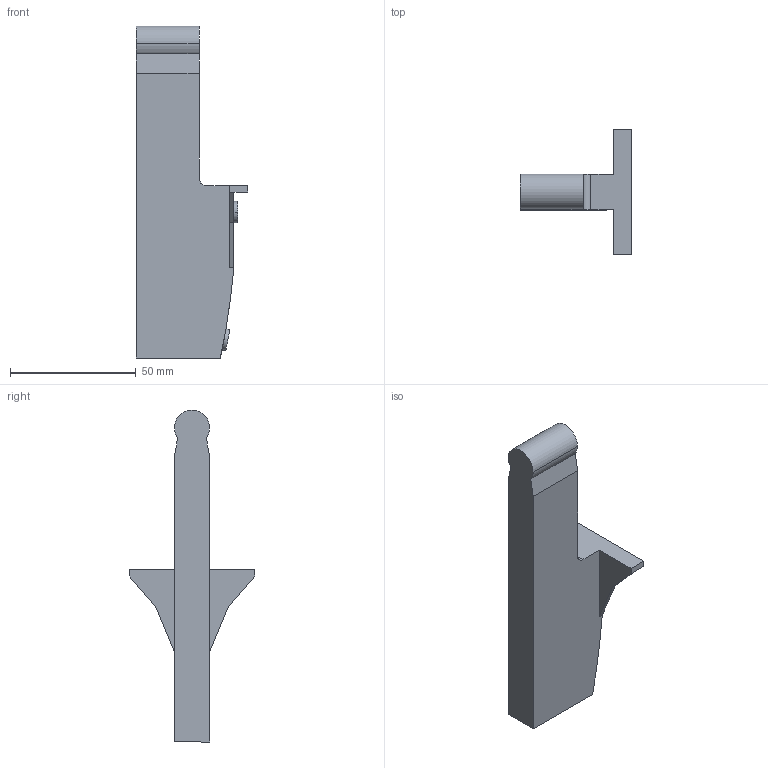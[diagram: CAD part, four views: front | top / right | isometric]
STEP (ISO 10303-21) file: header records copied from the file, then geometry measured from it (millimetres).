
FILE_DESCRIPTION (( 'STEP AP214' ), '1' );
FILE_NAME ('Halter_Magic-Optima_DWD-XP_H95.step', '2010-11-08T12:34:30', ( 'grass' ), ( '' ), 'SwSTEP 2.0', 'SolidWorks 2010', '' );
FILE_SCHEMA (( 'AUTOMOTIVE_DESIGN' ));
Length unit declared in the file: millimetre
Products named in the file (1): Halter_Magic-Optima_DWD-XP_H95
Bounding box: 44.3 x 50 x 132 mm (x, y, z)
Volume: 59569.6 mm3; surface area: 14647 mm2
Topology: 1 solids, 1 shells, 30 faces, 74 edges, 48 vertices
Faces by surface type: plane 21, cylinder 9
Entity records: 978 total; most frequent: CARTESIAN_POINT 219, DIRECTION 150, ORIENTED_EDGE 148, EDGE_CURVE 74, VECTOR 56, LINE 56, VERTEX_POINT 48, AXIS2_PLACEMENT_3D 47
